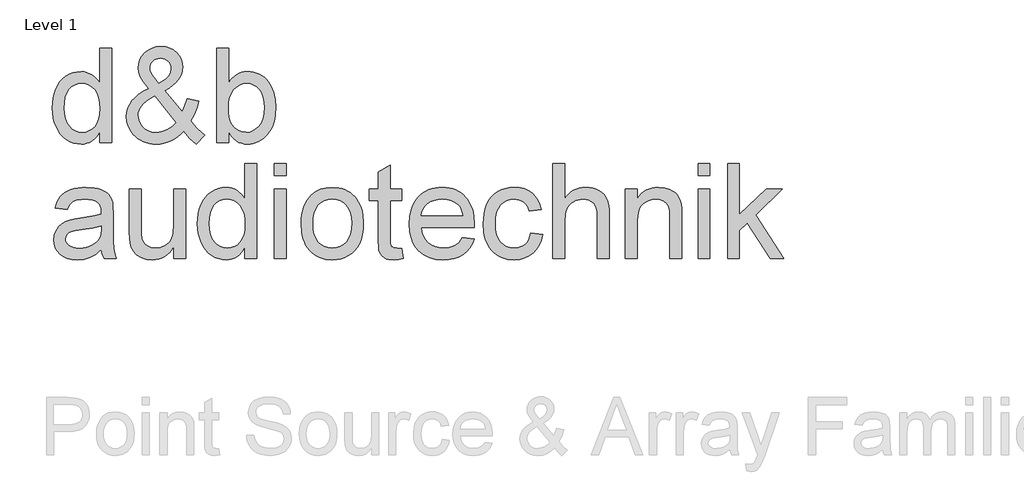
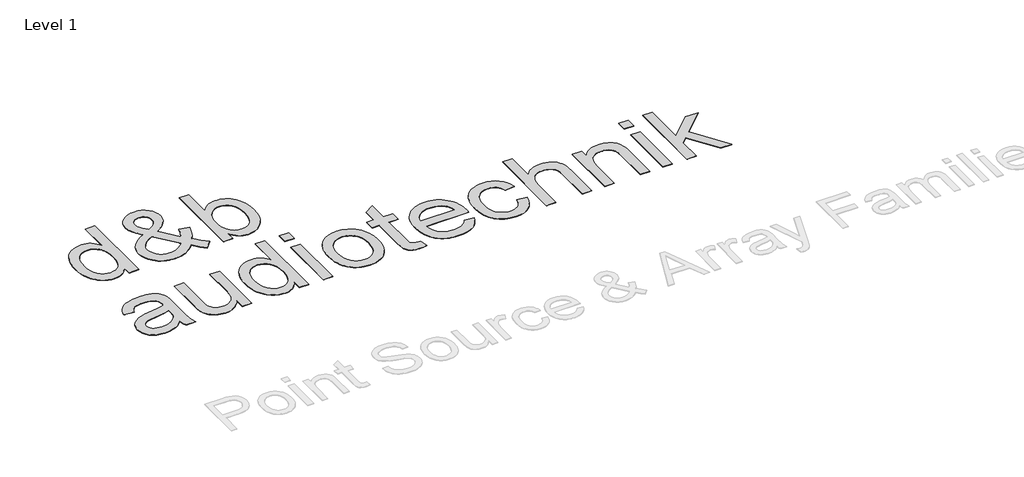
# One storey, part 7 of 9: 1 proxy.
"""IFC4 building model written with IfcOpenShell, lengths in millimetres."""

from ifc_helpers import new_model, si_unit, origin, origin_with_axes, place, context, project, spatial, polyline, outline, extrude, element, save

model = new_model("IFC4")

# Units and contexts
model_context = context("Model", 3, world=origin())
ifc_project = project(units=[si_unit("LENGTHUNIT", "METRE", prefix="MILLI")], contexts=[model_context])

# Site, building, storey
site = spatial("IfcSite", under=ifc_project)
building = spatial("IfcBuilding", under=site)
storey = spatial("IfcBuildingStorey", under=building, Name="Level 1", Elevation=0.0)

# Proxy
placement = place(None, origin())
element("IfcBuildingElementProxy", 1, Name="1000mm Arial", ObjectType="1000mm Arial", at=placement, inside=storey, context=model_context, shape_type="SweptSolid", body=[
    extrude(outline(polyline([(-20485.0918031, 21579.111869), (-20485.0918031, 21694.6019258), (-20502.4384754, 21663.947296), (-20521.720443, 21637.3799502), (-20542.937706, 21614.8998883), (-20566.0902643, 21596.5071105), (-20591.1781179, 21582.2016166), (-20618.2012669, 21571.9834066), (-20647.1597112, 21565.8524807), (-20678.0534508, 21563.8088387), (-20718.4630152, 21566.7678231), (-20757.1988107, 21575.6447762), (-20794.2608372, 21590.4396981), (-20829.6490948, 21611.1525887), (-20862.2577004, 21637.1632569), (-20890.9807709, 21667.8515115), (-20915.8183064, 21703.2173525), (-20936.7703069, 21743.26078), (-20953.4033857, 21787.2196312), (-20965.2841563, 21834.3317435), (-20972.4126187, 21884.597117), (-20974.7887728, 21938.0157516), (-20972.5994233, 21990.4555302), (-20966.0313746, 22040.4145442), (-20955.0846269, 22087.8927935), (-20939.75918, 22132.8902781), (-20920.0625062, 22174.0918939), (-20896.0020777, 22210.1825366), (-20867.5778945, 22241.1622064), (-20834.7899565, 22267.0309031), (-20798.7964521, 22287.429962), (-20760.7555697, 22302.0007184), (-20720.6673091, 22310.7431723), (-20678.5316705, 22313.6573235), (-20647.7163888, 22311.5725845), (-20618.6346535, 22305.3183676), (-20591.2864646, 22294.8946726), (-20565.671822, 22280.3014997), (-20542.0746689, 22262.3757332), (-20520.778948, 22241.9542577), (-20501.7846594, 22219.0370732), (-20485.0918031, 22193.6241796), (-20485.0918031, 22558.5058084), (-20362.6675607, 22558.5058084), (-20362.6675607, 21579.111869), (-20485.0918031, 21579.111869)]), holes=[polyline([(-20852.3645304, 21938.4939713), (-20848.9123819, 21879.1274792), (-20838.5559366, 21827.7562227), (-20821.2951944, 21784.3802017), (-20797.1301554, 21748.9994163), (-20768.2725855, 21721.5391447), (-20736.934251, 21701.9246649), (-20703.1151518, 21690.1559771), (-20666.815288, 21686.2330811), (-20630.3435639, 21689.9766447), (-20596.7262136, 21701.2073354), (-20565.9632372, 21719.9251532), (-20538.0546345, 21746.1300982), (-20514.8833958, 21780.0313914), (-20498.332511, 21821.8382539), (-20488.4019801, 21871.5506859), (-20485.0918031, 21929.1686872), (-20488.4617575, 21992.3385203), (-20498.5716208, 22046.5118453), (-20515.4213929, 22091.6886623), (-20539.0110739, 22127.8689713), (-20567.5323956, 22155.5907693), (-20599.1770896, 22175.3920537), (-20633.945156, 22187.2728242), (-20671.8365948, 22191.2330811), (-20708.8537882, 22187.4297401), (-20742.6728874, 22176.019717), (-20773.2938924, 22157.0030119), (-20800.7168031, 22130.3796247), (-20823.3126838, 22095.5667252), (-20839.4525986, 22051.9814831), (-20849.1365474, 21999.6238985), (-20852.3645304, 21938.4939713)])]), origin_with_axes(), (0.0, 0.0, 1.0), 5.0),
    extrude(outline(polyline([(-19617.362163, 21700.1014523), (-19647.8038355, 21668.157871), (-19679.590501, 21640.4734339), (-19712.7221594, 21617.0481409), (-19747.1988107, 21597.8819921), (-19783.0503436, 21582.9749875), (-19820.3066469, 21572.327127), (-19858.9677205, 21565.9384108), (-19899.0335645, 21563.8088387), (-19935.7219818, 21565.3854693), (-19970.4676317, 21570.1153609), (-20003.270514, 21577.9985138), (-20034.1306289, 21589.0349277), (-20063.0479762, 21603.2246028), (-20090.0225559, 21620.567539), (-20115.0543682, 21641.0637363), (-20138.143413, 21664.7131948), (-20169.42197, 21707.0505823), (-20191.7637965, 21751.8089571), (-20205.1688924, 21798.988319), (-20209.6372577, 21848.5886682), (-20206.0431377, 21892.569936), (-20195.260778, 21934.3693264), (-20177.2901785, 21973.9868394), (-20152.1313391, 22011.4224751), (-20119.829093, 22046.661289), (-20080.4282733, 22079.6883368), (-20033.9288799, 22110.5036185), (-19980.330913, 22139.1071341), (-20033.7420754, 22208.2098804), (-20065.8126838, 22262.9660357), (-20081.8629324, 22309.712011), (-20087.2130152, 22354.7842175), (-20082.9987041, 22397.569936), (-20070.3557709, 22437.4564476), (-20049.2842155, 22474.4437523), (-20019.784038, 22508.5318501), (-19983.9026163, 22537.0905326), (-19943.6873287, 22557.4895915), (-19899.138175, 22569.7290269), (-19850.2551554, 22573.8088387), (-19803.5839018, 22569.9083593), (-19761.3660692, 22558.2069211), (-19723.6016575, 22538.7045241), (-19690.2906667, 22511.4011682), (-19663.0919215, 22478.6281746), (-19643.6642463, 22442.7168643), (-19632.0076412, 22403.6672371), (-19628.1221061, 22361.4792932), (-19630.9988965, 22326.7336434), (-19639.6292676, 22293.273209), (-19654.0132194, 22261.09799), (-19674.150752, 22230.2079864), (-19700.0418653, 22200.6031983), (-19731.6865593, 22172.2836256), (-19769.084834, 22145.2492684), (-19812.2366895, 22119.5001266), (-19635.0562917, 21898.8017364), (-19604.8686734, 21961.866959), (-19582.2130152, 22034.3770205), (-19459.7887728, 22007.8358273), (-19477.213903, 21947.9836434), (-19497.4485739, 21894.4379817), (-19520.4927856, 21847.1988422), (-19546.346538, 21806.2662251), (-19512.6320493, 21763.9138931), (-19476.765572, 21725.0884315), (-19438.7471061, 21689.7898401), (-19398.5766516, 21658.018119), (-19490.3948334, 21563.8088387), (-19521.3745032, 21589.6327023), (-19552.8622813, 21620.9560925), (-19617.362163, 21700.1014523)]), holes=[polyline([(-19874.1661402, 22196.7326076), (-19810.1444783, 22237.3513931), (-19788.4004264, 22255.6657131), (-19773.500894, 22272.6499845), (-19756.2849849, 22306.9921365), (-19750.5463486, 22344.7416038), (-19752.4368108, 22367.2104574), (-19758.1081975, 22387.512378), (-19767.5605087, 22405.6473656), (-19780.7937444, 22421.6154201), (-19796.8664095, 22434.6394347), (-19814.8370091, 22443.9423022), (-19834.705543, 22449.5240228), (-19856.4720114, 22451.3845963), (-19878.7017552, 22449.5389671), (-19899.0036757, 22444.0020797), (-19917.3777732, 22434.773934), (-19933.8240474, 22421.85453), (-19947.3711148, 22406.2750289), (-19957.0475915, 22389.066592), (-19962.8534775, 22370.2292193), (-19964.7887728, 22349.7629107), (-19962.1585645, 22327.9142483), (-19954.2679395, 22304.9298141), (-19941.0571203, 22280.6900532), (-19922.4663296, 22255.0754107), (-19874.1661402, 22196.7326076)]), polyline([(-19699.376841, 21788.3329864), (-19917.9232425, 22061.1573235), (-19963.7202507, 22034.0333001), (-20001.4024684, 22007.8956048), (-20030.9698956, 21982.7442376), (-20052.4225323, 21958.5791985), (-20067.6433686, 21934.967101), (-20078.5153945, 21911.4745584), (-20085.03861, 21888.1015707), (-20087.2130152, 21864.8481379), (-20084.2390865, 21836.2446223), (-20075.3173003, 21807.1031095), (-20060.4476566, 21777.4235996), (-20039.6301554, 21747.2060925), (-20013.3579608, 21720.5304), (-19982.1242368, 21701.476334), (-19945.9289835, 21690.0438943), (-19904.7722008, 21686.2330811), (-19877.2969848, 21688.0114606), (-19849.3883822, 21693.3465991), (-19821.0463929, 21702.2384966), (-19792.2710171, 21714.6871531), (-19764.7210793, 21729.9602947), (-19740.055404, 21747.3256474), (-19718.2739912, 21766.7832113), (-19699.376841, 21788.3329864)])]), origin_with_axes(), (0.0, 0.0, 1.0), 5.0),
    extrude(outline(polyline([(-19153.7281667, 21579.111869), (-19276.1524092, 21579.111869), (-19276.1524092, 22558.5058084), (-19153.7281667, 22558.5058084), (-19153.7281667, 22195.2979485), (-19134.2481863, 22223.0384271), (-19113.468046, 22247.0801751), (-19091.3877459, 22267.4231927), (-19068.0072861, 22284.0674798), (-19043.3266664, 22297.0130364), (-19017.3458869, 22306.2598626), (-18990.0649476, 22311.8079583), (-18961.4838486, 22313.6573235), (-18929.5178507, 22311.9910268), (-18898.418626, 22306.9921365), (-18868.1861746, 22298.6606527), (-18838.8204963, 22286.9965754), (-18811.1734201, 22272.3137363), (-18786.0967747, 22254.925967), (-18763.5905602, 22234.8332675), (-18743.6547766, 22212.0356379), (-18710.3886189, 22158.7440305), (-18685.1924186, 22095.4695868), (-18669.3215024, 22024.8425153), (-18664.031197, 21949.4930243), (-18669.508307, 21862.5467056), (-18676.3546945, 21822.9964423), (-18685.9396369, 21786.0614429), (-18698.2631343, 21751.7417074), (-18713.3251867, 21720.0372359), (-18731.1257941, 21690.9480284), (-18751.6649565, 21664.4740849), (-18797.6861302, 21620.4330397), (-18822.3499374, 21603.1312005), (-18848.1158916, 21588.9751502), (-18874.9839928, 21577.9648889), (-18902.954241, 21570.1004166), (-18932.0266361, 21565.3817332), (-18962.2011781, 21563.8088387), (-18991.8694798, 21565.8375363), (-19019.9013734, 21571.9236292), (-19046.296859, 21582.0671173), (-19071.0559366, 21596.2680006), (-19094.1786062, 21614.5262792), (-19115.6648677, 21636.841953), (-19135.5147213, 21663.2150221), (-19153.7281667, 21693.6454864), (-19153.7281667, 21579.111869)]), holes=[polyline([(-19153.7281667, 21943.7543879), (-19151.6359556, 21888.5797904), (-19145.359322, 21841.6544826), (-19134.8982662, 21802.9784646), (-19120.252788, 21772.5517364), (-19090.5882224, 21734.7873247), (-19056.1115711, 21707.8127449), (-19016.8228341, 21691.6279971), (-18972.7220114, 21686.2330811), (-18936.1083159, 21690.2082823), (-18902.0650512, 21702.133886), (-18870.5922174, 21722.0098922), (-18841.6898145, 21749.8363008), (-18817.5247754, 21785.5383901), (-18800.2640332, 21829.0414381), (-18789.9075879, 21880.345445), (-18786.4554395, 21939.4504107), (-18789.7656164, 21999.6762037), (-18799.6961473, 22051.4733747), (-18816.2470322, 22094.8419234), (-18839.4182709, 22129.7818501), (-18867.2820404, 22156.6667636), (-18897.9105176, 22175.8702733), (-18931.3037024, 22187.3923792), (-18967.4615948, 22191.2330811), (-19004.0752903, 22187.2578799), (-19038.118555, 22175.3322762), (-19069.5913888, 22155.45627), (-19098.4937917, 22127.6298614), (-19122.6588308, 22092.2864369), (-19139.919573, 22049.8593832), (-19150.2760183, 22000.3487002), (-19153.7281667, 21943.7543879)])]), origin_with_axes(), (0.0, 0.0, 1.0), 5.0),
    extrude(outline(polyline([(-20469.7887728, 20473.9603538), (-20498.8182028, 20446.7167755), (-20528.2810195, 20423.8070631), (-20558.1772227, 20405.2312168), (-20588.5068126, 20390.9892364), (-20619.6135094, 20380.42357), (-20651.8410337, 20372.8766654), (-20719.6585645, 20366.8391417), (-20774.1681377, 20370.4706225), (-20821.9676909, 20381.365065), (-20863.0572239, 20399.5224691), (-20897.4367368, 20424.9428349), (-20924.5831768, 20456.0121708), (-20943.9734911, 20491.1164855), (-20955.6076796, 20530.2557788), (-20959.4857425, 20573.4300508), (-20953.6275512, 20624.1811162), (-20936.0529773, 20670.2695394), (-20908.9438983, 20709.7226644), (-20874.4821914, 20740.5678349), (-20833.9829608, 20763.8810451), (-20788.7613107, 20780.7382894), (-20744.7053211, 20790.123351), (-20682.8356478, 20799.1497478), (-20557.6616421, 20818.5176455), (-20509.331564, 20829.4569211), (-20470.5061023, 20841.2330811), (-20469.7887728, 20868.4916038), (-20471.8959283, 20898.1711138), (-20478.217395, 20923.1282042), (-20488.7531727, 20943.3628751), (-20503.5032614, 20958.8751266), (-20528.998349, 20974.3574893), (-20560.0527406, 20985.4163198), (-20596.6664362, 20992.051618), (-20638.8394357, 20994.2633841), (-20678.0534508, 20992.7913641), (-20711.7679395, 20988.3753041), (-20739.9829016, 20981.0152041), (-20762.6983372, 20970.7110641), (-20781.3638497, 20956.6558883), (-20797.4290427, 20938.042681), (-20810.893916, 20914.8714423), (-20821.7584698, 20887.142172), (-20944.1827122, 20902.4452023), (-20934.8649003, 20937.713905), (-20922.9318244, 20969.3959599), (-20908.3834846, 20997.4913671), (-20891.2198808, 21022.0001266), (-20870.7012669, 21043.4154024), (-20846.0878969, 21062.2303586), (-20817.3797707, 21078.4449952), (-20784.5768883, 21092.0593122), (-20748.3442741, 21102.8341997), (-20709.3469523, 21110.530548), (-20667.5849228, 21115.1483569), (-20623.0581857, 21116.6876266), (-20540.2962894, 21111.2478775), (-20505.3488906, 21104.4481912), (-20474.6905247, 21094.9286304), (-20425.2246748, 21070.3899822), (-20406.1631366, 21056.0359191), (-20390.8825228, 21040.29203), (-20368.1073097, 21003.0805598), (-20353.3422766, 20957.2013576), (-20348.8589669, 20914.8789144), (-20347.3645304, 20850.0801455), (-20347.3645304, 20697.767172), (-20345.8103164, 20565.0910948), (-20341.1476743, 20485.0789618), (-20331.9419452, 20432.5046839), (-20316.7584698, 20382.142172), (-20439.1827122, 20382.142172), (-20458.7897198, 20424.7037251), (-20469.7887728, 20473.9603538)]), holes=[polyline([(-20469.7887728, 20718.8088387), (-20552.0425607, 20698.4247241), (-20667.2935077, 20681.2685925), (-20730.8070612, 20671.8835309), (-20772.6213959, 20661.4224751), (-20800.0293623, 20647.8529912), (-20820.3238107, 20629.1426455), (-20832.8770777, 20606.7260972), (-20837.0615001, 20582.0380054), (-20834.7824843, 20563.013828), (-20827.9454371, 20545.6335309), (-20816.5503584, 20529.897114), (-20800.5972482, 20515.8045773), (-20780.2355501, 20504.1928053), (-20755.6147079, 20495.8986824), (-20726.7347215, 20490.9222087), (-20693.595591, 20489.2633841), (-20659.7615474, 20491.0940689), (-20627.8403827, 20496.5861233), (-20597.8320967, 20505.7395471), (-20569.7366895, 20518.5543406), (-20544.3910455, 20533.9694536), (-20522.6320493, 20550.9238363), (-20504.4597008, 20569.4174887), (-20489.8740001, 20589.4504107), (-20481.4005448, 20607.3836493), (-20475.3480768, 20629.1426455), (-20470.5061023, 20684.1379107), (-20469.7887728, 20718.8088387)])]), origin_with_axes(), (0.0, 0.0, 1.0), 5.0),
    extrude(outline(polyline([(-19719.940288, 20382.142172), (-19719.940288, 20505.7619637), (-19741.1762314, 20473.2019273), (-19764.2353874, 20444.9832291), (-19789.117756, 20421.1058691), (-19815.8233372, 20401.5698472), (-19844.352131, 20386.3751636), (-19874.7041374, 20375.5218181), (-19906.8793564, 20369.0098108), (-19940.877788, 20366.8391417), (-20000.5058064, 20372.9364429), (-20028.7730738, 20380.5580693), (-20056.00918, 20391.2283463), (-20102.575823, 20418.7259788), (-20120.7033384, 20434.8061162), (-20135.3936497, 20452.4404675), (-20157.4814219, 20493.388029), (-20171.8579016, 20542.5848804), (-20177.2378732, 20588.972191), (-20179.031197, 20656.4011682), (-20179.031197, 21101.3845963), (-20056.6069546, 21101.3845963), (-20056.6069546, 20714.0266417), (-20054.7538533, 20636.5550508), (-20049.1945493, 20589.2113008), (-20041.864338, 20567.1459451), (-20031.3509769, 20547.5762984), (-20017.6544659, 20530.5023608), (-20000.774805, 20515.9241323), (-19981.2201027, 20504.260055), (-19959.4984674, 20495.9285712), (-19935.6098991, 20490.9296809), (-19909.5543978, 20489.2633841), (-19882.7217895, 20490.9670418), (-19856.74101, 20496.0780148), (-19831.6120594, 20504.5963032), (-19807.3349376, 20516.5219069), (-19785.2247488, 20531.3840784), (-19766.5965971, 20548.7120702), (-19751.4504827, 20568.5058824), (-19739.7864054, 20590.7655148), (-19731.103729, 20616.9106823), (-19724.9018173, 20648.3610996), (-19719.940288, 20727.1776834), (-19719.940288, 21101.3845963), (-19597.5160455, 21101.3845963), (-19597.5160455, 20382.142172), (-19719.940288, 20382.142172)])), origin_with_axes(), (0.0, 0.0, 1.0), 5.0),
    extrude(outline(polyline([(-18985.3948334, 20382.142172), (-18985.3948334, 20497.6322288), (-19002.7415057, 20466.977599), (-19022.0234733, 20440.4102532), (-19043.2407363, 20417.9301914), (-19066.3932946, 20399.5374135), (-19091.4811482, 20385.2319196), (-19118.5042972, 20375.0137097), (-19147.4627415, 20368.8827837), (-19178.3564811, 20366.8391417), (-19218.7660455, 20369.7981261), (-19257.501841, 20378.6750792), (-19294.5638675, 20393.4700011), (-19329.9521251, 20414.1828917), (-19362.5607307, 20440.1935599), (-19391.2838012, 20470.8818145), (-19416.1213367, 20506.2476556), (-19437.0733372, 20546.291083), (-19453.706416, 20590.2499342), (-19465.5871866, 20637.3620466), (-19472.715649, 20687.62742), (-19475.0918031, 20741.0460546), (-19472.9024536, 20793.4858332), (-19466.3344049, 20843.4448472), (-19455.3876572, 20890.9230965), (-19440.0622103, 20935.9205811), (-19420.3655365, 20977.1221969), (-19396.305108, 21013.2128396), (-19367.8809248, 21044.1925094), (-19335.0929868, 21070.0612061), (-19299.0994824, 21090.4602651), (-19261.0586, 21105.0310215), (-19220.9703394, 21113.7734753), (-19178.8347008, 21116.6876266), (-19148.0194191, 21114.6028876), (-19118.9376838, 21108.3486706), (-19091.5894949, 21097.9249756), (-19065.9748523, 21083.3318027), (-19042.3776992, 21065.4060363), (-19021.0819783, 21044.9845608), (-19002.0876897, 21022.0673762), (-18985.3948334, 20996.6544826), (-18985.3948334, 21361.5361114), (-18862.970591, 21361.5361114), (-18862.970591, 20382.142172), (-18985.3948334, 20382.142172)]), holes=[polyline([(-19352.6675607, 20741.5242743), (-19349.2154122, 20682.1577822), (-19338.8589669, 20630.7865257), (-19321.5982247, 20587.4105048), (-19297.4331857, 20552.0297194), (-19268.5756158, 20524.5694477), (-19237.2372813, 20504.954968), (-19203.4181821, 20493.1862801), (-19167.1183183, 20489.2633841), (-19130.6465942, 20493.0069477), (-19097.0292439, 20504.2376384), (-19066.2662675, 20522.9554562), (-19038.3576648, 20549.1604012), (-19015.1864261, 20583.0616944), (-18998.6355413, 20624.868557), (-18988.7050104, 20674.5809889), (-18985.3948334, 20732.1989902), (-18988.7647878, 20795.3688233), (-18998.8746511, 20849.5421483), (-19015.7244233, 20894.7189653), (-19039.3141042, 20930.8992743), (-19067.8354259, 20958.6210724), (-19099.4801199, 20978.4223567), (-19134.2481863, 20990.3031273), (-19172.1396251, 20994.2633841), (-19209.1568185, 20990.4600431), (-19242.9759177, 20979.05002), (-19273.5969227, 20960.0333149), (-19301.0198334, 20933.4099277), (-19323.6157141, 20898.5970282), (-19339.7556289, 20855.0117861), (-19349.4395777, 20802.6542015), (-19352.6675607, 20741.5242743)])]), origin_with_axes(), (0.0, 0.0, 1.0), 5.0),
    extrude(outline(polyline([(-18679.3342273, 20382.142172), (-18679.3342273, 21101.3845963), (-18556.9099849, 21101.3845963), (-18556.9099849, 20382.142172), (-18679.3342273, 20382.142172)])), origin_with_axes(), (0.0, 0.0, 1.0), 5.0),
    extrude(outline(polyline([(-18679.3342273, 21239.111869), (-18679.3342273, 21361.5361114), (-18556.9099849, 21361.5361114), (-18556.9099849, 21239.111869), (-18679.3342273, 21239.111869)])), origin_with_axes(), (0.0, 0.0, 1.0), 5.0),
    extrude(outline(polyline([(-18403.8796819, 20741.7633841), (-18402.2245934, 20789.9477547), (-18397.259328, 20834.9116145), (-18388.9838856, 20876.6549635), (-18377.3982662, 20915.1778018), (-18362.5024698, 20950.4801292), (-18344.2964965, 20982.5619459), (-18322.7803463, 21011.4232519), (-18297.954019, 21037.064047), (-18251.2977098, 21071.8993631), (-18199.7994262, 21096.7817317), (-18143.4591682, 21111.7111528), (-18082.2769357, 21116.6876266), (-18014.7358757, 21110.6276863), (-17983.391937, 21103.0527611), (-17953.6657259, 21092.4478657), (-17925.5572424, 21078.8130002), (-17899.0664865, 21062.1481646), (-17874.1934581, 21042.4533588), (-17850.9381573, 21019.728583), (-17829.8946226, 20994.3325018), (-17811.6568925, 20966.6237801), (-17796.224967, 20936.6024178), (-17783.5988462, 20904.2684149), (-17773.77853, 20869.6217715), (-17766.7640184, 20832.6624875), (-17761.1524092, 20751.8059978), (-17763.6331738, 20686.2749549), (-17771.0754679, 20628.1264287), (-17783.4792913, 20577.3604189), (-17800.844644, 20533.9769258), (-17822.9548328, 20496.5039292), (-17849.5931644, 20463.4694092), (-17880.7596387, 20434.8733658), (-17916.4542558, 20410.7157989), (-17955.2871896, 20391.5197614), (-17995.8686142, 20377.808306), (-18038.1985295, 20369.5814328), (-18082.2769357, 20366.8391417), (-18150.8043238, 20372.8766654), (-18182.4845107, 20380.42357), (-18212.4423594, 20390.9892364), (-18240.6778701, 20404.5736647), (-18267.1910426, 20421.1768548), (-18291.9818769, 20440.7988067), (-18315.0503732, 20463.4395205), (-18335.8697424, 20488.9196637), (-18353.9131957, 20517.059904), (-18369.1807332, 20547.8602414), (-18381.6723547, 20581.3206758), (-18391.3880604, 20617.4412073), (-18398.3278501, 20656.2218358), (-18403.8796819, 20741.7633841)]), holes=[polyline([(-18281.4554395, 20742.002494), (-18277.9136248, 20682.6210576), (-18267.2881809, 20631.204968), (-18249.5791078, 20587.7542252), (-18224.7864054, 20552.2688292), (-18194.6286757, 20524.703947), (-18160.8245209, 20505.0147454), (-18123.3739409, 20493.2012245), (-18082.2769357, 20489.2633841), (-18041.3891516, 20493.223641), (-18004.0880152, 20505.1044116), (-17970.3735266, 20524.9056959), (-17940.2456857, 20552.627494), (-17915.4529833, 20588.4640825), (-17897.7439101, 20632.6097383), (-17887.1184662, 20685.0644613), (-17883.5766516, 20745.8282516), (-17887.1408828, 20803.3266979), (-17897.8335763, 20853.3977947), (-17915.6547322, 20896.0415417), (-17940.6043505, 20931.2579391), (-17970.8442741, 20958.8228213), (-18004.5363462, 20978.5120229), (-18041.6805667, 20990.3255438), (-18082.2769357, 20994.2633841), (-18123.3739409, 20990.3404882), (-18160.8245209, 20978.5718003), (-18194.6286757, 20958.9573206), (-18224.7864054, 20931.4970489), (-18249.5791078, 20896.1162635), (-18267.2881809, 20852.7402426), (-18277.9136248, 20801.3689861), (-18281.4554395, 20742.002494)])]), origin_with_axes(), (0.0, 0.0, 1.0), 5.0),
    extrude(outline(polyline([(-17363.2736213, 20484.2420773), (-17347.970591, 20378.5555243), (-17396.4501128, 20369.7682374), (-17439.549663, 20366.8391417), (-17498.3109082, 20371.920226), (-17522.0873938, 20378.2715814), (-17542.127788, 20387.1634788), (-17573.0925133, 20410.6560215), (-17593.2972955, 20440.4849751), (-17599.7831502, 20461.5415861), (-17604.4159035, 20491.7142601), (-17608.1221061, 20579.407797), (-17608.1221061, 20978.9603538), (-17699.940288, 20978.9603538), (-17699.940288, 21101.3845963), (-17608.1221061, 21101.3845963), (-17608.1221061, 21276.1738955), (-17485.6978637, 21348.1459599), (-17485.6978637, 21101.3845963), (-17363.2736213, 21101.3845963), (-17363.2736213, 20978.9603538), (-17485.6978637, 20978.9603538), (-17485.6978637, 20582.9944448), (-17484.0838722, 20542.7044353), (-17479.2418978, 20519.8694448), (-17470.7833869, 20507.2265115), (-17458.3197861, 20497.5126739), (-17440.655546, 20491.3257066), (-17416.5951175, 20489.2633841), (-17363.2736213, 20484.2420773)])), origin_with_axes(), (0.0, 0.0, 1.0), 5.0),
    extrude(outline(polyline([(-16737.284038, 20596.3845963), (-16617.250894, 20581.081566), (-16635.6548802, 20533.0055421), (-16660.4998879, 20490.6382658), (-16691.7859171, 20453.9797371), (-16729.5129679, 20423.0299561), (-16773.2924867, 20398.4464748), (-16822.7359201, 20380.8868453), (-16877.8432679, 20370.3510676), (-16938.6145304, 20366.8391417), (-16977.6305327, 20368.3541268), (-17014.5767404, 20372.8990819), (-17049.4531534, 20380.4740072), (-17082.2597719, 20391.0789026), (-17112.9965957, 20404.7137681), (-17141.6636248, 20421.3786037), (-17168.2608594, 20441.0734094), (-17192.7882993, 20463.7981853), (-17214.812558, 20489.25778), (-17233.9002489, 20517.1570424), (-17250.0513719, 20547.4959725), (-17263.2659272, 20580.2745702), (-17273.5439146, 20615.4928356), (-17280.8853341, 20653.1507687), (-17286.7584698, 20735.7856379), (-17280.8255567, 20821.2225757), (-17273.4094153, 20860.1414396), (-17263.0268173, 20896.5272336), (-17249.6777628, 20930.3799576), (-17233.3622517, 20961.6996117), (-17214.0802841, 20990.4861958), (-17191.8318599, 21016.7397099), (-17167.2184899, 21040.1650029), (-17140.8416847, 21060.4669234), (-17112.7014444, 21077.6454716), (-17082.797769, 21091.7006474), (-17051.1306585, 21102.6324508), (-17017.7001128, 21110.4408818), (-16982.5061319, 21115.1259404), (-16945.548716, 21116.6876266), (-16909.7999256, 21115.1296765), (-16875.721168, 21110.4558261), (-16843.3124433, 21102.6660756), (-16812.5737515, 21091.7604249), (-16783.5050925, 21077.7388739), (-16756.1064663, 21060.6014227), (-16730.377873, 21040.3480713), (-16706.3193126, 21016.9788198), (-16684.54724, 20990.7850831), (-16665.6781105, 20962.0582764), (-16649.711924, 20930.7983998), (-16636.6486805, 20897.0054533), (-16626.48838, 20860.6794368), (-16619.2310224, 20821.8203503), (-16613.4251364, 20736.5029675), (-16614.142466, 20703.5058084), (-17164.3342273, 20703.5058084), (-17157.2431259, 20654.6526775), (-17143.143117, 20611.866959), (-17122.0342007, 20575.1486528), (-17093.916377, 20544.4977591), (-17060.3438598, 20520.3327201), (-17022.8708632, 20503.0719779), (-16981.4973873, 20492.7155326), (-16936.2234319, 20489.2633841), (-16902.3594996, 20490.8624313), (-16871.0659982, 20495.6595726), (-16842.3429276, 20503.6548082), (-16816.190288, 20514.8481379), (-16792.6080791, 20529.5384492), (-16771.5963012, 20548.0246294), (-16753.1549541, 20570.3066784), (-16737.284038, 20596.3845963)]), holes=[polyline([(-17164.3342273, 20825.9300508), (-16735.8493789, 20825.9300508), (-16742.1409568, 20860.5710901), (-16752.4077359, 20890.6092648), (-16766.6497162, 20916.044575), (-16784.8668978, 20936.8770205), (-16818.2526104, 20961.9835546), (-16856.2411876, 20979.9167932), (-16898.8326293, 20990.6767364), (-16946.0269357, 20994.2633841), (-16989.0741806, 20991.4015381), (-17028.5497221, 20982.8160001), (-17064.4535603, 20968.5067702), (-17096.7856952, 20948.4738482), (-17123.9171908, 20923.6437848), (-17144.2191113, 20894.9431308), (-17157.6914569, 20862.3718862), (-17164.3342273, 20825.9300508)])]), origin_with_axes(), (0.0, 0.0, 1.0), 5.0),
    extrude(outline(polyline([(-16031.9099849, 20642.2936872), (-15909.4857425, 20626.9906569), (-15922.8011722, 20569.2232119), (-15943.6186734, 20518.1060096), (-15971.9382461, 20473.63905), (-16007.7598902, 20435.822333), (-16049.574225, 20405.6421868), (-16095.8718694, 20384.0849395), (-16146.6528235, 20371.1505912), (-16201.9170872, 20366.8391417), (-16270.5789746, 20372.8542488), (-16302.2479532, 20380.3731328), (-16332.1422884, 20390.8995702), (-16360.2619802, 20404.4335613), (-16386.6070286, 20420.9751059), (-16411.1774336, 20440.524204), (-16433.9731952, 20463.0808557), (-16454.5123575, 20488.4470482), (-16472.3129649, 20516.4247685), (-16487.3750173, 20547.0140167), (-16499.6985148, 20580.2147928), (-16509.2834572, 20616.0270967), (-16516.1298447, 20654.4509285), (-16521.6069546, 20739.1331758), (-16519.2681614, 20795.4211286), (-16512.2517818, 20848.0776005), (-16500.5578158, 20897.1025916), (-16484.1862633, 20942.4961019), (-16463.0250417, 20983.3465251), (-16436.9620683, 21018.7422549), (-16405.9973429, 21048.6832912), (-16370.1308656, 21073.1696341), (-16330.9841001, 21092.2087558), (-16290.17851, 21105.8081285), (-16247.7140954, 21113.967752), (-16203.5908561, 21116.6876266), (-16149.2755596, 21112.9515352), (-16100.1459579, 21101.743261), (-16056.2020511, 21083.0628041), (-16017.4438391, 21056.9101644), (-15984.528874, 21023.8831166), (-15958.1147079, 20984.5794353), (-15938.2013409, 20938.9991204), (-15924.7887728, 20887.142172), (-16047.2130152, 20871.8391417), (-16056.769937, 20900.4351852), (-16069.4203424, 20925.2503041), (-16085.1642315, 20946.2844986), (-16104.0016042, 20963.5377686), (-16125.454241, 20976.9802254), (-16149.0439219, 20986.5819803), (-16174.7706472, 20992.3430332), (-16202.6344167, 20994.2633841), (-16244.2320582, 20990.4824597), (-16281.7498879, 20979.1396862), (-16315.1879057, 20960.2350638), (-16344.5461118, 20933.7685925), (-16368.4496245, 20899.1275532), (-16385.5235621, 20855.6992269), (-16395.7679247, 20803.4836138), (-16399.1827122, 20742.4807137), (-16395.8426465, 20680.5587351), (-16385.8224494, 20627.7378751), (-16369.1221209, 20584.0181338), (-16345.7416611, 20549.399511), (-16316.9662852, 20523.0899555), (-16284.0812089, 20504.2974159), (-16247.086432, 20493.0218921), (-16205.9819546, 20489.2633841), (-16172.8577684, 20491.6096495), (-16142.587956, 20498.6484457), (-16115.1725175, 20510.3797726), (-16090.6114527, 20526.8036304), (-16069.5922026, 20548.0993512), (-16052.8022079, 20574.4462677), (-16040.2414687, 20605.8443796), (-16031.9099849, 20642.2936872)])), origin_with_axes(), (0.0, 0.0, 1.0), 5.0),
    extrude(outline(polyline([(-15802.3645304, 20382.142172), (-15802.3645304, 21361.5361114), (-15679.940288, 21361.5361114), (-15679.940288, 21001.4366796), (-15658.1476669, 21028.4486203), (-15634.9726921, 21051.8589689), (-15610.4153634, 21071.6677254), (-15584.4756809, 21087.8748898), (-15557.1536447, 21100.4804622), (-15528.4492546, 21109.4844424), (-15498.3625107, 21114.8868305), (-15466.893413, 21116.6876266), (-15428.6208928, 21114.7224425), (-15392.9486923, 21108.8268903), (-15359.8768114, 21099.00097), (-15329.4052501, 21085.2446815), (-15302.3111154, 21068.0213002), (-15279.3715143, 21047.7941015), (-15260.5864468, 21024.5630853), (-15245.955913, 20998.3282516), (-15234.9718043, 20967.4681367), (-15227.1260124, 20930.3612771), (-15222.4185372, 20887.0076727), (-15220.8493789, 20837.4073235), (-15220.8493789, 20382.142172), (-15343.2736213, 20382.142172), (-15343.2736213, 20824.7345016), (-15345.7095529, 20866.0706166), (-15353.0173476, 20901.369208), (-15365.1970055, 20930.6302757), (-15382.2485266, 20953.8538198), (-15403.768413, 20971.5330042), (-15429.3531667, 20984.160993), (-15459.002788, 20991.7377864), (-15492.7172766, 20994.2633841), (-15518.981999, 20992.5597265), (-15544.4546701, 20987.4487535), (-15569.1352897, 20978.9304651), (-15593.023858, 20967.0048614), (-15614.8276873, 20952.1651064), (-15633.25409, 20934.9043643), (-15648.3030661, 20915.2226349), (-15659.9746156, 20893.1199182), (-15668.7095973, 20867.5799975), (-15674.9488699, 20837.5866559), (-15679.940288, 20764.2397099), (-15679.940288, 20382.142172), (-15802.3645304, 20382.142172)])), origin_with_axes(), (0.0, 0.0, 1.0), 5.0),
    extrude(outline(polyline([(-15052.5160455, 20382.142172), (-15052.5160455, 21101.3845963), (-14930.0918031, 21101.3845963), (-14930.0918031, 21000.9584599), (-14909.8944931, 21028.0824833), (-14887.5601388, 21051.5899703), (-14863.0887403, 21071.4809208), (-14836.4802974, 21087.7553349), (-14807.7348103, 21100.4132125), (-14776.852279, 21109.4545537), (-14743.8327033, 21114.8793583), (-14708.6760834, 21116.6876266), (-14648.3307354, 21110.859324), (-14593.0664717, 21093.3744163), (-14568.3634354, 21080.8062049), (-14546.9780484, 21066.4147809), (-14528.9103104, 21050.2001443), (-14514.1602217, 21032.1622951), (-14491.893117, 20990.7066251), (-14477.4568599, 20942.1374372), (-14472.6148855, 20895.6903491), (-14471.000894, 20823.7780622), (-14471.000894, 20382.142172), (-14593.4251364, 20382.142172), (-14593.4251364, 20807.2794826), (-14596.9520067, 20870.583815), (-14607.5326175, 20915.596244), (-14615.9388231, 20932.6253485), (-14627.0499589, 20947.8461848), (-14657.3870209, 20972.8630527), (-14696.27226, 20988.9133013), (-14741.4341327, 20994.2633841), (-14778.6082419, 20991.2595667), (-14813.1371985, 20982.2481143), (-14845.0210023, 20967.2290269), (-14874.2596535, 20946.2023046), (-14898.6862189, 20916.7768489), (-14916.1337657, 20876.5615612), (-14926.6022938, 20825.5564417), (-14930.0918031, 20763.7614902), (-14930.0918031, 20382.142172), (-15052.5160455, 20382.142172)])), origin_with_axes(), (0.0, 0.0, 1.0), 5.0),
    extrude(outline(polyline([(-14302.6675607, 20382.142172), (-14302.6675607, 21101.3845963), (-14180.2433183, 21101.3845963), (-14180.2433183, 20382.142172), (-14302.6675607, 20382.142172)])), origin_with_axes(), (0.0, 0.0, 1.0), 5.0),
    extrude(outline(polyline([(-14302.6675607, 21239.111869), (-14302.6675607, 21361.5361114), (-14180.2433183, 21361.5361114), (-14180.2433183, 21239.111869), (-14302.6675607, 21239.111869)])), origin_with_axes(), (0.0, 0.0, 1.0), 5.0),
    extrude(outline(polyline([(-13996.6069546, 20382.142172), (-13996.6069546, 21361.5361114), (-13874.1827122, 21361.5361114), (-13874.1827122, 20835.2553349), (-13599.6846061, 21101.3845963), (-13430.3948334, 21101.3845963), (-13708.2404773, 20831.907797), (-13415.0918031, 20382.142172), (-13558.0794925, 20382.142172), (-13795.9937917, 20746.784691), (-13874.1827122, 20670.986869), (-13874.1827122, 20382.142172), (-13996.6069546, 20382.142172)])), origin_with_axes(), (0.0, 0.0, 1.0), 5.0),
])

save(model, "model.ifc")
